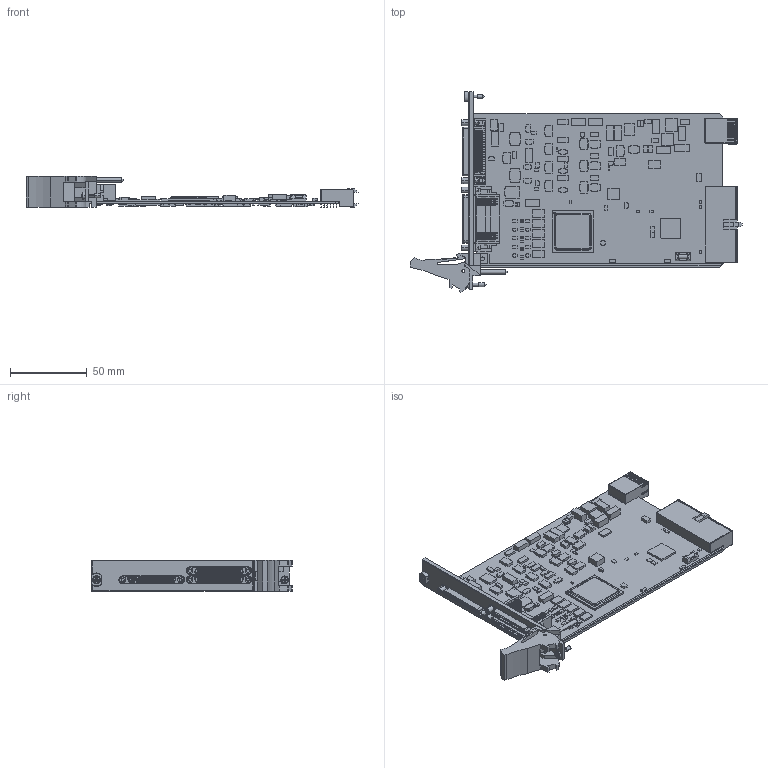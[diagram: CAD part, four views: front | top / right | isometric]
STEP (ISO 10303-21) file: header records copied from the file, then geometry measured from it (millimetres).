
FILE_DESCRIPTION((''),'2;1');
FILE_NAME('CD_PXI-785XR','2008-11-18T',('scarrasc'),(''),'PRO/ENGINEER BY PARAMETRIC TECHNOLOGY CORPORATION, 2006300','PRO/ENGINEER BY PARAMETRIC TECHNOLOGY CORPORATION, 2006300','');
FILE_SCHEMA(('CONFIG_CONTROL_DESIGN'));
Products named in the file (1): CD_PXI-785XR
Bounding box: 216.08 x 130.5 x 20.19 mm (x, y, z)
Volume: 64784.8 mm3; surface area: 65208.8 mm2
Topology: 1 solids, 3 shells, 7908 faces, 21653 edges, 14236 vertices
Faces by surface type: plane 6851, cylinder 993, cone 34, sphere 14, torus 12, bspline 4
Entity records: 248336 total; most frequent: CARTESIAN_POINT 44796, ORIENTED_EDGE 43298, DIRECTION 39542, EDGE_CURVE 21649, VECTOR 19338, LINE 19338, VERTEX_POINT 14236, AXIS2_PLACEMENT_3D 10102
